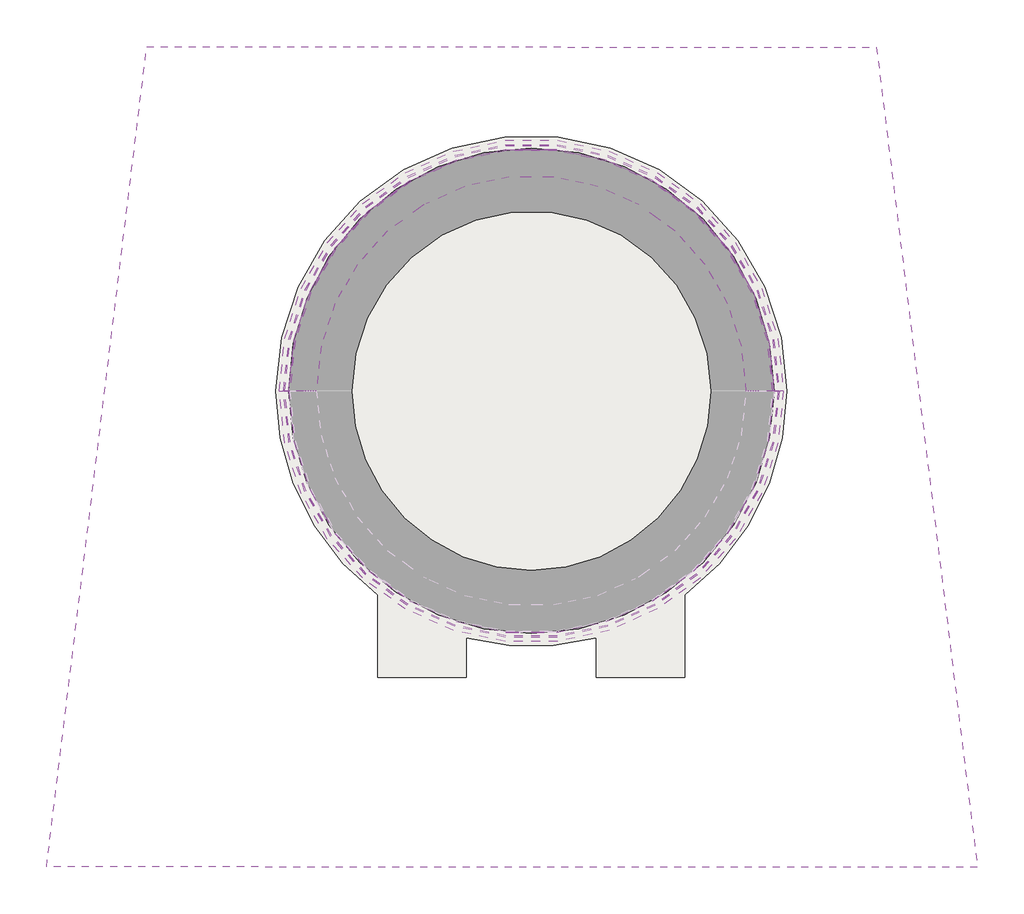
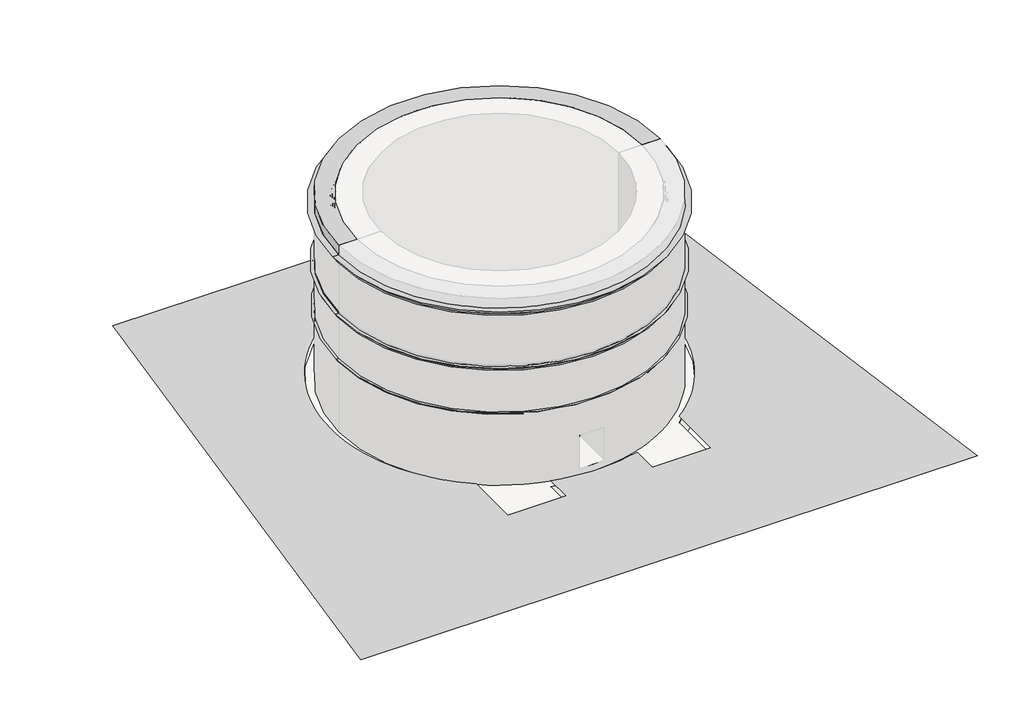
# One storey, part 2 of 2: 9 proxies, 1 slab.
"""IFC4 building model written with IfcOpenShell, lengths in millimetres."""

from ifc_helpers import new_model, si_unit, point, frame, frame_2d, origin, place, context, project, spatial, polyline, circle_curve, ellipse_curve, trimmed, segment, composite_curve, outline, extrude, triangles, element, save
from ifc_brep_helpers import plane_surface, cylinder_surface, revolved_surface, advanced_brep

model = new_model("IFC4")

# Units and contexts
model_context = context("Model", 3, world=origin())
ifc_project = project(units=[si_unit("LENGTHUNIT", "METRE", prefix="MILLI")], contexts=[model_context])

# Site, building, storey
site = spatial("IfcSite", under=ifc_project)
building = spatial("IfcBuilding", under=site)
storey = spatial("IfcBuildingStorey", under=building, Name="T.O. Footing", Elevation=-1219.2)

# Proxies
placement = place(None, origin())
element("IfcBuildingElementProxy", 1, Name="Building Element Proxy", at=placement, inside=storey, context=model_context, shape_type="Tessellation", body=[
    triangles([(-43945.8059692, 43617.1748657, 0.0), (-56048.1788818, -55489.3199707, 0.0), (56344.5189331, -55536.0706055, 0.0), (44155.6303711, 43521.608606, 0.0), (-28350.3509216, 2019.2411373, 0.0), (-28300.060968, 3779.6088318, 0.0), (-28149.3562134, 5534.2348709, 0.0), (-27898.7296509, 7277.3953308, 0.0), (-27548.9928589, 9003.4050934, 0.0), (-27101.2922791, 10706.6336884, 0.0), (-26557.0882874, 12381.5256409, 0.0), (-25918.1528687, 14022.6184937, 0.0), (-25186.5696167, 15624.5590851, 0.0), (-24364.7290833, 17182.12099, 0.0), (-23455.3101746, 18690.2254486, 0.0), (-22461.2755005, 20143.9518311, 0.0), (-21385.8737, 21538.559729, 0.0), (-20232.6068848, 22869.4994202, 0.0), (-19005.2399414, 24132.4316345, 0.0), (-17707.7749512, 25323.2333679, 0.0), (-16344.4453766, 26438.0211365, 0.0), (-14919.6974579, 27473.1626038, 0.0), (-13438.1774231, 28425.2765808, 0.0), (-11904.7186981, 29291.2609314, 0.0), (-10324.3233032, 30068.2902466, 0.0), (-8702.1449936, 30753.8274719, 0.0), (-7043.4764694, 31345.6401855, 0.0), (-5353.7267029, 31841.7936218, 0.0), (-3638.4078575, 32240.6739258, 0.0), (-1903.1152313, 32540.9788513, 0.0), (-153.5085079, 32741.727063, 0.0), (1604.7052483, 32842.2651123, 0.0), (3365.7910675, 32842.2651123, 0.0), (5124.0046783, 32741.727063, 0.0), (6873.6118378, 32540.9788513, 0.0), (8608.9041733, 32240.6739258, 0.0), (10324.2233093, 31841.7936218, 0.0), (12013.9724945, 31345.6401855, 0.0), (13672.6410187, 30753.8274719, 0.0), (15294.8199097, 30068.2902466, 0.0), (16875.2153046, 29291.2609314, 0.0), (18408.6740295, 28425.2765808, 0.0), (19890.1929016, 27473.1626038, 0.0), (21314.9431458, 26438.0211365, 0.0), (22678.2715576, 25323.2333679, 0.0), (23975.7365479, 24132.4316345, 0.0), (24248.6477966, 23851.6115662, 0.0), (25203.1034912, 22869.4994202, 0.0), (26356.3703064, 21538.559729, 0.0), (27431.7721069, 20143.9518311, 0.0), (28425.806781, 18690.2254486, 0.0), (29335.2256897, 17182.12099, 0.0), (30157.0662231, 15624.5590851, 0.0), (30888.6494751, 14022.6184937, 0.0), (31527.5848938, 12381.5256409, 0.0), (32071.7888855, 10706.6336884, 0.0), (32519.4894653, 9003.4050934, 0.0), (32869.2239319, 7277.3953308, 0.0), (33119.8528198, 5534.2348709, 0.0), (33270.5575745, 3779.6088318, 0.0), (33320.8475281, 2019.2411373, 0.0), (33275.047998, 339.211635, 0.0), (33137.7796326, -1335.8270382, 0.0), (32909.4563599, -3000.8990959, 0.0), (32590.7525574, -4651.0579651, 0.0), (32182.614679, -6281.401474, 0.0), (31686.256604, -7887.0871857, 0.0), (31103.1526611, -9463.3444611, 0.0), (30435.0353027, -11005.4910278, 0.0), (29683.8881287, -12508.9446075, 0.0), (28851.9435608, -13969.2415192, 0.0), (27941.6735413, -15382.04133, 0.0), (26955.7802307, -16743.1489471, 0.0), (25897.1936829, -18048.5192688, 0.0), (24769.0602173, -19294.2746246, 0.0), (23574.7261414, -20476.7152405, 0.0), (22317.7447266, -21592.3308655, 0.0), (21001.8483032, -22637.8019348, 0.0), (21001.8483032, -32615.8812561, 0.0), (10333.8483032, -32615.8812561, 0.0), (10333.8483032, -27800.7798157, 0.0), (8616.4909195, -28200.6554077, 0.0), (6879.0847595, -28501.7091248, 0.0), (5127.3102905, -28702.9619568, 0.0), (3366.8965233, -28803.7511536, 0.0), (1603.5999378, -28803.7511536, 0.0), (-156.8138294, -28702.9619568, 0.0), (-1908.5880077, -28501.7091248, 0.0), (-3645.994313, -28200.6554077, 0.0), (-5363.3516968, -27800.7798157, 0.0), (-5363.3516968, -32615.8812561, 0.0), (-16031.3516968, -32615.8812561, 0.0), (-16031.3516968, -22637.8019348, 0.0), (-17347.2492828, -21592.3308655, 0.0), (-18604.2306976, -20476.7152405, 0.0), (-19607.9984985, -19482.9421783, 0.0), (-19798.5636108, -19294.2746246, 0.0), (-20926.6970764, -18048.5192688, 0.0), (-21985.2836243, -16743.1489471, 0.0), (-22971.1769348, -15382.04133, 0.0), (-23881.4469543, -13969.2415192, 0.0), (-24713.3915222, -12508.9446075, 0.0), (-25464.5386963, -11005.4910278, 0.0), (-26132.6560547, -9463.3444611, 0.0), (-26715.7599976, -7887.0871857, 0.0), (-27212.1180725, -6281.401474, 0.0), (-27620.2559509, -4651.0579651, 0.0), (-27938.9597534, -3000.8990959, 0.0), (-28167.2853516, -1335.8270382, 0.0), (-28304.5513916, 339.211635, 0.0)], [[2, 103, 104], [103, 2, 102], [2, 104, 105], [101, 102, 2], [100, 101, 2], [2, 99, 100], [110, 5, 2], [109, 110, 2], [105, 106, 2], [107, 108, 2], [106, 107, 2], [109, 2, 108], [2, 5, 1], [91, 92, 2], [90, 91, 89], [86, 87, 91], [88, 89, 91], [87, 88, 91], [91, 85, 86], [98, 99, 92], [97, 98, 92], [93, 94, 92], [96, 97, 92], [94, 95, 92], [92, 95, 96], [92, 99, 2], [2, 3, 91], [7, 8, 1], [6, 7, 1], [9, 10, 1], [11, 12, 1], [10, 11, 1], [8, 9, 1], [1, 13, 14], [13, 1, 12], [1, 14, 15], [15, 16, 1], [17, 18, 1], [16, 17, 1], [1, 18, 19], [6, 1, 5], [20, 21, 1], [19, 20, 1], [22, 23, 1], [24, 25, 1], [23, 24, 1], [21, 22, 1], [27, 28, 1], [26, 27, 1], [29, 30, 1], [31, 32, 1], [30, 31, 1], [28, 29, 1], [25, 26, 1], [1, 32, 4], [84, 85, 80], [83, 84, 80], [81, 82, 80], [80, 82, 83], [79, 80, 3], [85, 91, 80], [77, 78, 79], [75, 76, 79], [73, 74, 79], [75, 79, 74], [77, 79, 76], [79, 3, 73], [71, 72, 3], [70, 71, 3], [69, 3, 68], [3, 69, 70], [67, 68, 3], [3, 66, 67], [72, 73, 3], [65, 66, 3], [64, 65, 3], [62, 63, 3], [4, 60, 61], [62, 3, 61], [64, 3, 63], [61, 3, 4], [80, 91, 3], [41, 42, 4], [40, 41, 4], [45, 46, 4], [43, 44, 4], [45, 4, 44], [42, 43, 4], [34, 35, 4], [33, 34, 4], [38, 39, 4], [36, 37, 4], [38, 4, 37], [35, 36, 4], [40, 4, 39], [54, 55, 4], [53, 54, 4], [58, 59, 4], [56, 57, 4], [58, 4, 57], [55, 56, 4], [48, 49, 4], [47, 48, 4], [51, 52, 4], [50, 4, 49], [4, 50, 51], [52, 53, 4], [47, 4, 46], [59, 60, 4], [33, 4, 32]], closed=False),
])
element("IfcBuildingElementProxy", 2, Name="Lower Cornice", ObjectType="Lower Cornice", at=placement, inside=storey, context=model_context, shape_type="AdvancedBrep", body=[
    advanced_brep(
    [(-26826.3517732, 2019.2411242, 12954.0), (31796.8482268, 2019.2411242, 12954.0), (32254.0482268, 2019.2411242, 12954.0), (-27283.5517732, 2019.2411242, 12954.0), (-26826.3517732, 2019.2411242, 12496.8), (31796.8482268, 2019.2411242, 12496.8), (-26953.3517732, 2019.2411242, 12496.8), (31923.8482268, 2019.2411242, 12496.8), (-26953.3517732, 2019.2411242, 12623.8), (31923.8482268, 2019.2411242, 12623.8)],
    [
        (0, 1, circle_curve(frame((2485.2482268, 2019.2411242, 12954.0), z_axis=(0.0, 0.0, -1.0), x_axis=(1.0, 0.0, 0.0)), 29311.6)),
        (1, 2),
        (2, 3, circle_curve(frame((2485.2482268, 2019.2411242, 12954.0), z_axis=(0.0, 0.0, 1.0), x_axis=(1.0, 0.0, 0.0)), 29768.8)),
        (3, 0),
        (4, 5, circle_curve(frame((2485.2482268, 2019.2411242, 12496.8), z_axis=(0.0, 0.0, -1.0), x_axis=(1.0, 0.0, 0.0)), 29311.6)),
        (5, 1),
        (0, 4),
        (6, 7, circle_curve(frame((2485.2482268, 2019.2411242, 12496.8), z_axis=(0.0, 0.0, -1.0), x_axis=(1.0, 0.0, 0.0)), 29438.6)),
        (7, 5),
        (4, 6),
        (8, 9, circle_curve(frame((2485.2482268, 2019.2411242, 12623.8), z_axis=(0.0, 0.0, -1.0), x_axis=(1.0, 0.0, 0.0)), 29438.6)),
        (9, 7),
        (6, 8),
        (2, 9),
        (8, 3),
    ],
    [
        plane_surface(frame((2485.2482268, 2019.2411242, 12954.0), z_axis=(0.0, 0.0, 1.0), x_axis=(1.0, 0.0, 0.0))),
        revolved_surface(polyline([(31796.848226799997, 2019.2411242, 12954.0), (31796.848226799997, 2019.2411242, 12496.8)]), (2485.2482268, 2019.2411242, 12954.0), (0.0, 0.0, 1.0)),
        plane_surface(frame((2485.2482268, 2019.2411242, 12496.8), z_axis=(0.0, 0.0, -1.0), x_axis=(1.0, 0.0, 0.0))),
        cylinder_surface(frame((2485.2482268, 2019.2411242, 12954.0), z_axis=(0.0, 0.0, 1.0), x_axis=(1.0, 0.0, 0.0)), 29438.6),
        revolved_surface(polyline([(31923.8482268, 2019.2411242, 12623.8), (32254.0482268, 2019.2411242, 12954.0)]), (2485.2482268, 2019.2411242, 12954.0), (0.0, 0.0, 1.0)),
        plane_surface(frame((31796.8482268, 2019.2411242, 13258.8), z_axis=(0.0, -1.0, 0.0), x_axis=(1.0, 0.0, 0.0))),
        plane_surface(frame((-26826.3517732, 2019.2411242, 12649.2), z_axis=(0.0, -1.0, 0.0), x_axis=(1.0, 0.0, 0.0))),
    ],
    [
        (0, [[1, 2, 3, 4]]),
        (1, [[5, 6, -1, 7]]),
        (2, [[8, 9, -5, 10]]),
        (3, [[11, 12, -8, 13]]),
        (4, [[-3, 14, -11, 15]]),
        (5, [[-2, -6, -9, -12, -14]]),
        (6, [[-15, -13, -10, -7, -4]]),
    ],
),
])
element("IfcBuildingElementProxy", 3, Name="Lower Cornice", ObjectType="Lower Cornice", at=placement, inside=storey, context=model_context, shape_type="AdvancedBrep", body=[
    advanced_brep(
    [(-26953.3517732, 2019.2411242, 12623.8), (31923.8482268, 2019.2411242, 12623.8), (32254.0482268, 2019.2411242, 12954.0), (-27283.5517732, 2019.2411242, 12954.0), (-26953.3517732, 2019.2411242, 12496.8), (31923.8482268, 2019.2411242, 12496.8), (-26826.3517732, 2019.2411242, 12496.8), (31796.8482268, 2019.2411242, 12496.8), (-26826.3517732, 2019.2411242, 12954.0), (31796.8482268, 2019.2411242, 12954.0)],
    [
        (0, 1, circle_curve(frame((2485.2482268, 2019.2411242, 12623.8), z_axis=(0.0, 0.0, 1.0), x_axis=(1.0, 0.0, 0.0)), 29438.6)),
        (1, 2),
        (2, 3, circle_curve(frame((2485.2482268, 2019.2411242, 12954.0), z_axis=(0.0, 0.0, -1.0), x_axis=(1.0, 0.0, 0.0)), 29768.8)),
        (3, 0),
        (4, 5, circle_curve(frame((2485.2482268, 2019.2411242, 12496.8), z_axis=(0.0, 0.0, 1.0), x_axis=(1.0, 0.0, 0.0)), 29438.6)),
        (5, 1),
        (0, 4),
        (6, 7, circle_curve(frame((2485.2482268, 2019.2411242, 12496.8), z_axis=(0.0, 0.0, 1.0), x_axis=(1.0, 0.0, 0.0)), 29311.6)),
        (7, 5),
        (4, 6),
        (8, 9, circle_curve(frame((2485.2482268, 2019.2411242, 12954.0), z_axis=(0.0, 0.0, 1.0), x_axis=(1.0, 0.0, 0.0)), 29311.6)),
        (9, 7),
        (6, 8),
        (2, 9),
        (8, 3),
    ],
    [
        revolved_surface(polyline([(32254.0482268, 2019.2411242, 12954.0), (31923.8482268, 2019.2411242, 12623.8)]), (2485.2482268, 2019.2411242, 12954.0), (0.0, 0.0, -1.0)),
        cylinder_surface(frame((2485.2482268, 2019.2411242, 12954.0), z_axis=(0.0, 0.0, -1.0), x_axis=(1.0, 0.0, 0.0)), 29438.6),
        plane_surface(frame((2485.2482268, 2019.2411242, 12496.8), z_axis=(0.0, 0.0, -1.0), x_axis=(1.0, 0.0, 0.0))),
        revolved_surface(polyline([(31796.848226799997, 2019.2411242, 12496.8), (31796.848226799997, 2019.2411242, 12954.0)]), (2485.2482268, 2019.2411242, 12954.0), (0.0, 0.0, -1.0)),
        plane_surface(frame((2485.2482268, 2019.2411242, 12954.0), z_axis=(0.0, 0.0, 1.0), x_axis=(1.0, 0.0, 0.0))),
        plane_surface(frame((31796.8482268, 2019.2411242, 12649.2), z_axis=(0.0, 1.0, 0.0), x_axis=(1.0, 0.0, 0.0))),
        plane_surface(frame((-26826.3517732, 2019.2411242, 13258.8), z_axis=(0.0, 1.0, 0.0), x_axis=(1.0, 0.0, 0.0))),
    ],
    [
        (0, [[1, 2, 3, 4]]),
        (1, [[5, 6, -1, 7]]),
        (2, [[8, 9, -5, 10]]),
        (3, [[11, 12, -8, 13]]),
        (4, [[-3, 14, -11, 15]]),
        (5, [[-2, -6, -9, -12, -14]]),
        (6, [[-15, -13, -10, -7, -4]]),
    ],
),
])
element("IfcBuildingElementProxy", 4, Name="Reveal", ObjectType="Reveal", at=placement, inside=storey, context=model_context, shape_type="AdvancedBrep", body=[
    advanced_brep(
    [(-26826.3517732, 2019.2411242, 32918.4), (31796.8482268, 2019.2411242, 32918.4), (29968.0482268, 2019.2411242, 32918.4), (-24997.5517732, 2019.2411242, 32918.4), (-26826.3517732, 2019.2411242, 34747.2), (31796.8482268, 2019.2411242, 34747.2), (-23473.5517732, 2019.2411242, 34747.2), (28444.0482268, 2019.2411242, 34747.2), (-23473.5517732, 2019.2411242, 34442.4), (28444.0482268, 2019.2411242, 34442.4), (-23778.3517732, 2019.2411242, 34442.4), (28748.8482268, 2019.2411242, 34442.4), (-23778.3517732, 2019.2411242, 34137.6), (28748.8482268, 2019.2411242, 34137.6), (-24083.1517732, 2019.2411242, 34137.6), (29053.6482268, 2019.2411242, 34137.6), (-24083.1517732, 2019.2411242, 33832.8), (29053.6482268, 2019.2411242, 33832.8), (-24387.9517732, 2019.2411242, 33832.8), (29358.4482268, 2019.2411242, 33832.8), (-24387.9517732, 2019.2411242, 33528.0), (29358.4482268, 2019.2411242, 33528.0), (-24692.7517732, 2019.2411242, 33528.0), (29663.2482268, 2019.2411242, 33528.0), (-24692.7517732, 2019.2411242, 33223.2), (29663.2482268, 2019.2411242, 33223.2), (-24997.5517732, 2019.2411242, 33223.2), (29968.0482268, 2019.2411242, 33223.2)],
    [
        (0, 1, circle_curve(frame((2485.2482268, 2019.2411242, 32918.4), z_axis=(0.0, 0.0, -1.0), x_axis=(1.0, 0.0, 0.0)), 29311.6)),
        (1, 2),
        (2, 3, circle_curve(frame((2485.2482268, 2019.2411242, 32918.4), z_axis=(0.0, 0.0, 1.0), x_axis=(1.0, 0.0, 0.0)), 27482.8)),
        (3, 0),
        (4, 5, circle_curve(frame((2485.2482268, 2019.2411242, 34747.2), z_axis=(0.0, 0.0, -1.0), x_axis=(1.0, 0.0, 0.0)), 29311.6)),
        (5, 1),
        (0, 4),
        (6, 7, circle_curve(frame((2485.2482268, 2019.2411242, 34747.2), z_axis=(0.0, 0.0, -1.0), x_axis=(1.0, 0.0, 0.0)), 25958.8)),
        (7, 5),
        (4, 6),
        (8, 9, circle_curve(frame((2485.2482268, 2019.2411242, 34442.4), z_axis=(0.0, 0.0, -1.0), x_axis=(1.0, 0.0, 0.0)), 25958.8)),
        (9, 7),
        (6, 8),
        (10, 11, circle_curve(frame((2485.2482268, 2019.2411242, 34442.4), z_axis=(0.0, 0.0, -1.0), x_axis=(1.0, 0.0, 0.0)), 26263.6)),
        (11, 9),
        (8, 10),
        (12, 13, circle_curve(frame((2485.2482268, 2019.2411242, 34137.6), z_axis=(0.0, 0.0, -1.0), x_axis=(1.0, 0.0, 0.0)), 26263.6)),
        (13, 11),
        (10, 12),
        (14, 15, circle_curve(frame((2485.2482268, 2019.2411242, 34137.6), z_axis=(0.0, 0.0, -1.0), x_axis=(1.0, 0.0, 0.0)), 26568.4)),
        (15, 13),
        (12, 14),
        (16, 17, circle_curve(frame((2485.2482268, 2019.2411242, 33832.8), z_axis=(0.0, 0.0, -1.0), x_axis=(1.0, 0.0, 0.0)), 26568.4)),
        (17, 15),
        (14, 16),
        (18, 19, circle_curve(frame((2485.2482268, 2019.2411242, 33832.8), z_axis=(0.0, 0.0, -1.0), x_axis=(1.0, 0.0, 0.0)), 26873.2)),
        (19, 17),
        (16, 18),
        (20, 21, circle_curve(frame((2485.2482268, 2019.2411242, 33528.0), z_axis=(0.0, 0.0, -1.0), x_axis=(1.0, 0.0, 0.0)), 26873.2)),
        (21, 19),
        (18, 20),
        (22, 23, circle_curve(frame((2485.2482268, 2019.2411242, 33528.0), z_axis=(0.0, 0.0, -1.0), x_axis=(1.0, 0.0, 0.0)), 27178.0)),
        (23, 21),
        (20, 22),
        (24, 25, circle_curve(frame((2485.2482268, 2019.2411242, 33223.2), z_axis=(0.0, 0.0, -1.0), x_axis=(1.0, 0.0, 0.0)), 27178.0)),
        (25, 23),
        (22, 24),
        (26, 27, circle_curve(frame((2485.2482268, 2019.2411242, 33223.2), z_axis=(0.0, 0.0, -1.0), x_axis=(1.0, 0.0, 0.0)), 27482.8)),
        (27, 25),
        (24, 26),
        (2, 27),
        (26, 3),
    ],
    [
        plane_surface(frame((2485.2482268, 2019.2411242, 32918.4), z_axis=(0.0, 0.0, -1.0), x_axis=(1.0, 0.0, 0.0))),
        cylinder_surface(frame((2485.2482268, 2019.2411242, 34747.2), z_axis=(0.0, 0.0, 1.0), x_axis=(1.0, 0.0, 0.0)), 29311.6),
        plane_surface(frame((2485.2482268, 2019.2411242, 34747.2), z_axis=(0.0, 0.0, 1.0), x_axis=(1.0, 0.0, 0.0))),
        revolved_surface(polyline([(28444.048226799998, 2019.2411242, 34747.2), (28444.048226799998, 2019.2411242, 34442.4)]), (2485.2482268, 2019.2411242, 34747.2), (0.0, 0.0, 1.0)),
        plane_surface(frame((2485.2482268, 2019.2411242, 34442.4), z_axis=(0.0, 0.0, -1.0), x_axis=(1.0, 0.0, 0.0))),
        revolved_surface(polyline([(28748.848226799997, 2019.2411242, 34442.4), (28748.848226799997, 2019.2411242, 34137.6)]), (2485.2482268, 2019.2411242, 34747.2), (0.0, 0.0, 1.0)),
        plane_surface(frame((2485.2482268, 2019.2411242, 34137.6), z_axis=(0.0, 0.0, -1.0), x_axis=(1.0, 0.0, 0.0))),
        revolved_surface(polyline([(29053.6482268, 2019.2411242, 34137.6), (29053.6482268, 2019.2411242, 33832.8)]), (2485.2482268, 2019.2411242, 34747.2), (0.0, 0.0, 1.0)),
        plane_surface(frame((2485.2482268, 2019.2411242, 33832.8), z_axis=(0.0, 0.0, -1.0), x_axis=(1.0, 0.0, 0.0))),
        revolved_surface(polyline([(29358.4482268, 2019.2411242, 33832.8), (29358.4482268, 2019.2411242, 33528.0)]), (2485.2482268, 2019.2411242, 34747.2), (0.0, 0.0, 1.0)),
        plane_surface(frame((2485.2482268, 2019.2411242, 33528.0), z_axis=(0.0, 0.0, -1.0), x_axis=(1.0, 0.0, 0.0))),
        revolved_surface(polyline([(29663.2482268, 2019.2411242, 33528.0), (29663.2482268, 2019.2411242, 33223.2)]), (2485.2482268, 2019.2411242, 34747.2), (0.0, 0.0, 1.0)),
        plane_surface(frame((2485.2482268, 2019.2411242, 33223.2), z_axis=(0.0, 0.0, -1.0), x_axis=(1.0, 0.0, 0.0))),
        revolved_surface(polyline([(29968.048226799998, 2019.2411242, 33223.2), (29968.048226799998, 2019.2411242, 32918.4)]), (2485.2482268, 2019.2411242, 34747.2), (0.0, 0.0, 1.0)),
        plane_surface(frame((31796.8482268, 2019.2411242, 35052.0), z_axis=(0.0, -1.0, 0.0), x_axis=(1.0, 0.0, 0.0))),
        plane_surface(frame((-26826.3517732, 2019.2411242, 34442.4), z_axis=(0.0, -1.0, 0.0), x_axis=(1.0, 0.0, 0.0))),
    ],
    [
        (0, [[1, 2, 3, 4]]),
        (1, [[5, 6, -1, 7]]),
        (2, [[8, 9, -5, 10]]),
        (3, [[11, 12, -8, 13]]),
        (4, [[14, 15, -11, 16]]),
        (5, [[17, 18, -14, 19]]),
        (6, [[20, 21, -17, 22]]),
        (7, [[23, 24, -20, 25]]),
        (8, [[26, 27, -23, 28]]),
        (9, [[29, 30, -26, 31]]),
        (10, [[32, 33, -29, 34]]),
        (11, [[35, 36, -32, 37]]),
        (12, [[38, 39, -35, 40]]),
        (13, [[-3, 41, -38, 42]]),
        (14, [[-2, -6, -9, -12, -15, -18, -21, -24, -27, -30, -33, -36, -39, -41]]),
        (15, [[-42, -40, -37, -34, -31, -28, -25, -22, -19, -16, -13, -10, -7, -4]]),
    ],
),
])
element("IfcBuildingElementProxy", 5, Name="Roof Cornice", ObjectType="Roof Cornice", at=placement, inside=storey, context=model_context, shape_type="AdvancedBrep", body=[
    advanced_brep(
    [(-26826.3517732, 2019.2411242, 32918.4), (31796.8482268, 2019.2411242, 32918.4), (32914.4482268, 2019.2411242, 32918.4), (-27943.9517732, 2019.2411242, 32918.4), (-26826.3517732, 2019.2411242, 31699.2), (31796.8482268, 2019.2411242, 31699.2), (-27131.1517732, 2019.2411242, 31699.2), (32101.6482268, 2019.2411242, 31699.2), (-27131.1517732, 2019.2411242, 32004.0), (32101.6482268, 2019.2411242, 32004.0)],
    [
        (0, 1, circle_curve(frame((2485.2482268, 2019.2411242, 32918.4), z_axis=(0.0, 0.0, -1.0), x_axis=(1.0, 0.0, 0.0)), 29311.6)),
        (1, 2),
        (2, 3, circle_curve(frame((2485.2482268, 2019.2411242, 32918.4), z_axis=(0.0, 0.0, 1.0), x_axis=(1.0, 0.0, 0.0)), 30429.2)),
        (3, 0),
        (4, 5, circle_curve(frame((2485.2482268, 2019.2411242, 31699.2), z_axis=(0.0, 0.0, -1.0), x_axis=(1.0, 0.0, 0.0)), 29311.6)),
        (5, 1),
        (0, 4),
        (6, 7, circle_curve(frame((2485.2482268, 2019.2411242, 31699.2), z_axis=(0.0, 0.0, -1.0), x_axis=(1.0, 0.0, 0.0)), 29616.4)),
        (7, 5),
        (4, 6),
        (8, 9, circle_curve(frame((2485.2482268, 2019.2411242, 32004.0), z_axis=(0.0, 0.0, -1.0), x_axis=(1.0, 0.0, 0.0)), 29616.4)),
        (9, 7),
        (6, 8),
        (2, 9),
        (8, 3),
    ],
    [
        plane_surface(frame((2485.2482268, 2019.2411242, 32918.4), z_axis=(0.0, 0.0, 1.0), x_axis=(1.0, 0.0, 0.0))),
        revolved_surface(polyline([(31796.848226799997, 2019.2411242, 32918.4), (31796.848226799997, 2019.2411242, 31699.2)]), (2485.2482268, 2019.2411242, 32918.4), (0.0, 0.0, 1.0)),
        plane_surface(frame((2485.2482268, 2019.2411242, 31699.2), z_axis=(0.0, 0.0, -1.0), x_axis=(1.0, 0.0, 0.0))),
        cylinder_surface(frame((2485.2482268, 2019.2411242, 32918.4), z_axis=(0.0, 0.0, 1.0), x_axis=(1.0, 0.0, 0.0)), 29616.4),
        revolved_surface(polyline([(32101.6482268, 2019.2411242, 32004.0), (32914.4482268, 2019.2411242, 32918.4)]), (2485.2482268, 2019.2411242, 32918.4), (0.0, 0.0, 1.0)),
        plane_surface(frame((31796.8482268, 2019.2411242, 33223.2), z_axis=(0.0, -1.0, 0.0), x_axis=(1.0, 0.0, 0.0))),
        plane_surface(frame((-26826.3517732, 2019.2411242, 32613.6), z_axis=(0.0, -1.0, 0.0), x_axis=(1.0, 0.0, 0.0))),
    ],
    [
        (0, [[1, 2, 3, 4]]),
        (1, [[5, 6, -1, 7]]),
        (2, [[8, 9, -5, 10]]),
        (3, [[11, 12, -8, 13]]),
        (4, [[-3, 14, -11, 15]]),
        (5, [[-2, -6, -9, -12, -14]]),
        (6, [[-15, -13, -10, -7, -4]]),
    ],
),
])
element("IfcBuildingElementProxy", 6, Name="Roof Cornice", ObjectType="Roof Cornice", at=placement, inside=storey, context=model_context, shape_type="AdvancedBrep", body=[
    advanced_brep(
    [(-27131.1517732, 2019.2411242, 32004.0), (32101.6482268, 2019.2411242, 32004.0), (32914.4482268, 2019.2411242, 32918.4), (-27943.9517732, 2019.2411242, 32918.4), (-27131.1517732, 2019.2411242, 31699.2), (32101.6482268, 2019.2411242, 31699.2), (-26826.3517732, 2019.2411242, 31699.2), (31796.8482268, 2019.2411242, 31699.2), (-26826.3517732, 2019.2411242, 32918.4), (31796.8482268, 2019.2411242, 32918.4)],
    [
        (0, 1, circle_curve(frame((2485.2482268, 2019.2411242, 32004.0), z_axis=(0.0, 0.0, 1.0), x_axis=(1.0, 0.0, 0.0)), 29616.4)),
        (1, 2),
        (2, 3, circle_curve(frame((2485.2482268, 2019.2411242, 32918.4), z_axis=(0.0, 0.0, -1.0), x_axis=(1.0, 0.0, 0.0)), 30429.2)),
        (3, 0),
        (4, 5, circle_curve(frame((2485.2482268, 2019.2411242, 31699.2), z_axis=(0.0, 0.0, 1.0), x_axis=(1.0, 0.0, 0.0)), 29616.4)),
        (5, 1),
        (0, 4),
        (6, 7, circle_curve(frame((2485.2482268, 2019.2411242, 31699.2), z_axis=(0.0, 0.0, 1.0), x_axis=(1.0, 0.0, 0.0)), 29311.6)),
        (7, 5),
        (4, 6),
        (8, 9, circle_curve(frame((2485.2482268, 2019.2411242, 32918.4), z_axis=(0.0, 0.0, 1.0), x_axis=(1.0, 0.0, 0.0)), 29311.6)),
        (9, 7),
        (6, 8),
        (2, 9),
        (8, 3),
    ],
    [
        revolved_surface(polyline([(32914.4482268, 2019.2411242, 32918.4), (32101.6482268, 2019.2411242, 32004.0)]), (2485.2482268, 2019.2411242, 32918.4), (0.0, 0.0, -1.0)),
        cylinder_surface(frame((2485.2482268, 2019.2411242, 32918.4), z_axis=(0.0, 0.0, -1.0), x_axis=(1.0, 0.0, 0.0)), 29616.4),
        plane_surface(frame((2485.2482268, 2019.2411242, 31699.2), z_axis=(0.0, 0.0, -1.0), x_axis=(1.0, 0.0, 0.0))),
        revolved_surface(polyline([(31796.848226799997, 2019.2411242, 31699.2), (31796.848226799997, 2019.2411242, 32918.4)]), (2485.2482268, 2019.2411242, 32918.4), (0.0, 0.0, -1.0)),
        plane_surface(frame((2485.2482268, 2019.2411242, 32918.4), z_axis=(0.0, 0.0, 1.0), x_axis=(1.0, 0.0, 0.0))),
        plane_surface(frame((31796.8482268, 2019.2411242, 32613.6), z_axis=(0.0, 1.0, 0.0), x_axis=(1.0, 0.0, 0.0))),
        plane_surface(frame((-26826.3517732, 2019.2411242, 33223.2), z_axis=(0.0, 1.0, 0.0), x_axis=(1.0, 0.0, 0.0))),
    ],
    [
        (0, [[1, 2, 3, 4]]),
        (1, [[5, 6, -1, 7]]),
        (2, [[8, 9, -5, 10]]),
        (3, [[11, 12, -8, 13]]),
        (4, [[-3, 14, -11, 15]]),
        (5, [[-2, -6, -9, -12, -14]]),
        (6, [[-15, -13, -10, -7, -4]]),
    ],
),
])
element("IfcBuildingElementProxy", 7, Name="Upper Cornice", ObjectType="Upper Cornice", at=placement, inside=storey, context=model_context, shape_type="AdvancedBrep", body=[
    advanced_brep(
    [(-26826.3517732, 2019.2411242, 21691.6), (31796.8482268, 2019.2411242, 21691.6), (32406.4482268, 2019.2411242, 21691.6), (-27435.9517732, 2019.2411242, 21691.6), (-26826.3517732, 2019.2411242, 21107.4), (31796.8482268, 2019.2411242, 21107.4), (-27131.1517732, 2019.2411242, 21107.4), (32101.6482268, 2019.2411242, 21107.4), (-27131.1517732, 2019.2411242, 21361.4), (32101.6482268, 2019.2411242, 21361.4)],
    [
        (0, 1, circle_curve(frame((2485.2482268, 2019.2411242, 21691.6), z_axis=(0.0, 0.0, -1.0), x_axis=(1.0, 0.0, 0.0)), 29311.6)),
        (1, 2),
        (2, 3, circle_curve(frame((2485.2482268, 2019.2411242, 21691.6), z_axis=(0.0, 0.0, 1.0), x_axis=(1.0, 0.0, 0.0)), 29921.2)),
        (3, 0),
        (4, 5, circle_curve(frame((2485.2482268, 2019.2411242, 21107.4), z_axis=(0.0, 0.0, -1.0), x_axis=(1.0, 0.0, 0.0)), 29311.6)),
        (5, 1),
        (0, 4),
        (6, 7, circle_curve(frame((2485.2482268, 2019.2411242, 21107.4), z_axis=(0.0, 0.0, -1.0), x_axis=(1.0, 0.0, 0.0)), 29616.4)),
        (7, 5),
        (4, 6),
        (8, 9, circle_curve(frame((2485.2482268, 2019.2411242, 21361.4), z_axis=(0.0, 0.0, -1.0), x_axis=(1.0, 0.0, 0.0)), 29616.4)),
        (9, 7),
        (6, 8),
        (2, 9),
        (8, 3),
    ],
    [
        plane_surface(frame((2485.2482268, 2019.2411242, 21691.6), z_axis=(0.0, 0.0, 1.0), x_axis=(1.0, 0.0, 0.0))),
        revolved_surface(polyline([(31796.848226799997, 2019.2411242, 21691.6), (31796.848226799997, 2019.2411242, 21107.4)]), (2485.2482268, 2019.2411242, 21691.6), (0.0, 0.0, 1.0)),
        plane_surface(frame((2485.2482268, 2019.2411242, 21107.4), z_axis=(0.0, 0.0, -1.0), x_axis=(1.0, 0.0, 0.0))),
        cylinder_surface(frame((2485.2482268, 2019.2411242, 21691.6), z_axis=(0.0, 0.0, 1.0), x_axis=(1.0, 0.0, 0.0)), 29616.4),
        revolved_surface(polyline([(32101.6482268, 2019.2411242, 21361.4), (32406.4482268, 2019.2411242, 21691.6)]), (2485.2482268, 2019.2411242, 21691.6), (0.0, 0.0, 1.0)),
        plane_surface(frame((31796.8482268, 2019.2411242, 21996.4), z_axis=(0.0, -1.0, 0.0), x_axis=(1.0, 0.0, 0.0))),
        plane_surface(frame((-26826.3517732, 2019.2411242, 21386.8), z_axis=(0.0, -1.0, 0.0), x_axis=(1.0, 0.0, 0.0))),
    ],
    [
        (0, [[1, 2, 3, 4]]),
        (1, [[5, 6, -1, 7]]),
        (2, [[8, 9, -5, 10]]),
        (3, [[11, 12, -8, 13]]),
        (4, [[-3, 14, -11, 15]]),
        (5, [[-2, -6, -9, -12, -14]]),
        (6, [[-15, -13, -10, -7, -4]]),
    ],
),
])
element("IfcBuildingElementProxy", 8, Name="Upper Cornice", ObjectType="Upper Cornice", at=placement, inside=storey, context=model_context, shape_type="AdvancedBrep", body=[
    advanced_brep(
    [(-27131.1517732, 2019.2411242, 21361.4), (32101.6482268, 2019.2411242, 21361.4), (32406.4482268, 2019.2411242, 21691.6), (-27435.9517732, 2019.2411242, 21691.6), (-27131.1517732, 2019.2411242, 21107.4), (32101.6482268, 2019.2411242, 21107.4), (-26826.3517732, 2019.2411242, 21107.4), (31796.8482268, 2019.2411242, 21107.4), (-26826.3517732, 2019.2411242, 21691.6), (31796.8482268, 2019.2411242, 21691.6)],
    [
        (0, 1, circle_curve(frame((2485.2482268, 2019.2411242, 21361.4), z_axis=(0.0, 0.0, 1.0), x_axis=(1.0, 0.0, 0.0)), 29616.4)),
        (1, 2),
        (2, 3, circle_curve(frame((2485.2482268, 2019.2411242, 21691.6), z_axis=(0.0, 0.0, -1.0), x_axis=(1.0, 0.0, 0.0)), 29921.2)),
        (3, 0),
        (4, 5, circle_curve(frame((2485.2482268, 2019.2411242, 21107.4), z_axis=(0.0, 0.0, 1.0), x_axis=(1.0, 0.0, 0.0)), 29616.4)),
        (5, 1),
        (0, 4),
        (6, 7, circle_curve(frame((2485.2482268, 2019.2411242, 21107.4), z_axis=(0.0, 0.0, 1.0), x_axis=(1.0, 0.0, 0.0)), 29311.6)),
        (7, 5),
        (4, 6),
        (8, 9, circle_curve(frame((2485.2482268, 2019.2411242, 21691.6), z_axis=(0.0, 0.0, 1.0), x_axis=(1.0, 0.0, 0.0)), 29311.6)),
        (9, 7),
        (6, 8),
        (2, 9),
        (8, 3),
    ],
    [
        revolved_surface(polyline([(32406.4482268, 2019.2411242, 21691.6), (32101.6482268, 2019.2411242, 21361.4)]), (2485.2482268, 2019.2411242, 21691.6), (0.0, 0.0, -1.0)),
        cylinder_surface(frame((2485.2482268, 2019.2411242, 21691.6), z_axis=(0.0, 0.0, -1.0), x_axis=(1.0, 0.0, 0.0)), 29616.4),
        plane_surface(frame((2485.2482268, 2019.2411242, 21107.4), z_axis=(0.0, 0.0, -1.0), x_axis=(1.0, 0.0, 0.0))),
        revolved_surface(polyline([(31796.848226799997, 2019.2411242, 21107.4), (31796.848226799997, 2019.2411242, 21691.6)]), (2485.2482268, 2019.2411242, 21691.6), (0.0, 0.0, -1.0)),
        plane_surface(frame((2485.2482268, 2019.2411242, 21691.6), z_axis=(0.0, 0.0, 1.0), x_axis=(1.0, 0.0, 0.0))),
        plane_surface(frame((31796.8482268, 2019.2411242, 21386.8), z_axis=(0.0, 1.0, 0.0), x_axis=(1.0, 0.0, 0.0))),
        plane_surface(frame((-26826.3517732, 2019.2411242, 21996.4), z_axis=(0.0, 1.0, 0.0), x_axis=(1.0, 0.0, 0.0))),
    ],
    [
        (0, [[1, 2, 3, 4]]),
        (1, [[5, 6, -1, 7]]),
        (2, [[8, 9, -5, 10]]),
        (3, [[11, 12, -8, 13]]),
        (4, [[-3, 14, -11, 15]]),
        (5, [[-2, -6, -9, -12, -14]]),
        (6, [[-15, -13, -10, -7, -4]]),
    ],
),
])
element("IfcBuildingElementProxy", 9, Name="Upper Reveal", ObjectType="Upper Reveal", at=placement, inside=storey, context=model_context, shape_type="AdvancedBrep", body=[
    advanced_brep(
    [(-26826.3517732, 2019.2411242, 21996.4), (31796.8482268, 2019.2411242, 21996.4), (31796.8482268, 2019.2411242, 21691.6), (-26826.3517732, 2019.2411242, 21691.6), (-26673.9517732, 2019.2411242, 21996.4), (31644.4482268, 2019.2411242, 21996.4), (-26673.9517732, 2019.2411242, 21691.6), (31644.4482268, 2019.2411242, 21691.6), (-26705.7017732, 2019.2411242, 21691.6), (31676.1982268, 2019.2411242, 21691.6), (-26794.6017732, 2019.2411242, 21691.6), (31765.0982268, 2019.2411242, 21691.6)],
    [
        (0, 1, circle_curve(frame((2485.2482268, 2019.2411242, 21996.4), z_axis=(0.0, 0.0, -1.0), x_axis=(1.0, 0.0, 0.0)), 29311.6)),
        (1, 2),
        (2, 3, circle_curve(frame((2485.2482268, 2019.2411242, 21691.6), z_axis=(0.0, 0.0, 1.0), x_axis=(1.0, 0.0, 0.0)), 29311.6)),
        (3, 0),
        (4, 5, circle_curve(frame((2485.2482268, 2019.2411242, 21996.4), z_axis=(0.0, 0.0, -1.0), x_axis=(1.0, 0.0, 0.0)), 29159.2)),
        (5, 1),
        (0, 4),
        (6, 7, circle_curve(frame((2485.2482268, 2019.2411242, 21691.6), z_axis=(0.0, 0.0, -1.0), x_axis=(1.0, 0.0, 0.0)), 29159.2)),
        (7, 5),
        (4, 6),
        (8, 9, circle_curve(frame((2485.2482268, 2019.2411242, 21691.6), z_axis=(0.0, 0.0, -1.0), x_axis=(1.0, 0.0, 0.0)), 29190.95)),
        (9, 7, circle_curve(frame((31660.3232268, 2019.2411242, 21683.4377871), z_axis=(0.0, -1.0, 0.0), x_axis=(-1.0, 0.0, 0.0)), 17.8504158)),
        (6, 8, circle_curve(frame((-26689.8267732, 2019.2411242, 21683.4377871), z_axis=(0.0, -1.0, 0.0), x_axis=(1.0, 0.0, 0.0)), 17.8504158)),
        (10, 11, circle_curve(frame((2485.2482268, 2019.2411242, 21691.6), z_axis=(0.0, 0.0, -1.0), x_axis=(1.0, 0.0, 0.0)), 29279.85)),
        (11, 9),
        (8, 10),
        (2, 11, circle_curve(frame((31780.9732268, 2019.2411242, 21684.3497601), z_axis=(0.0, -1.0, 0.0), x_axis=(-1.0, 0.0, 0.0)), 17.4522664)),
        (10, 3, circle_curve(frame((-26810.4767732, 2019.2411242, 21684.3497601), z_axis=(0.0, -1.0, 0.0), x_axis=(1.0, 0.0, 0.0)), 17.4522664)),
    ],
    [
        cylinder_surface(frame((2485.2482268, 2019.2411242, 21691.6), z_axis=(0.0, 0.0, 1.0), x_axis=(1.0, 0.0, 0.0)), 29311.6),
        plane_surface(frame((2485.2482268, 2019.2411242, 21996.4), z_axis=(0.0, 0.0, 1.0), x_axis=(1.0, 0.0, 0.0))),
        revolved_surface(polyline([(31644.4482268, 2019.2411242, 21996.4), (31644.4482268, 2019.2411242, 21691.6)]), (2485.2482268, 2019.2411242, 21691.6), (0.0, 0.0, 1.0)),
        revolved_surface(trimmed(ellipse_curve(frame((31660.3232268, 2019.2411242, 21683.4377871), z_axis=(0.0, 1.0, 0.0), x_axis=(-1.0, 0.0, 0.0)), 17.8504158, 17.8504158), [point((31644.4482268, 2019.2411242, 21691.6))], [point((31676.1982268, 2019.2411242, 21691.6))], True, "CARTESIAN"), (2485.2482268, 2019.2411242, 21691.6), (0.0, 0.0, 1.0)),
        plane_surface(frame((2485.2482268, 2019.2411242, 21691.6), z_axis=(0.0, 0.0, -1.0), x_axis=(1.0, 0.0, 0.0))),
        revolved_surface(trimmed(ellipse_curve(frame((31780.9732268, 2019.2411242, 21684.3497601), z_axis=(0.0, 1.0, 0.0), x_axis=(-1.0, 0.0, 0.0)), 17.4522664, 17.4522664), [point((31765.0982268, 2019.2411242, 21691.6))], [point((31796.8482268, 2019.2411242, 21691.6))], True, "CARTESIAN"), (2485.2482268, 2019.2411242, 21691.6), (0.0, 0.0, 1.0)),
        plane_surface(frame((31796.8482268, 2019.2411242, 21996.4), z_axis=(0.0, -1.0, 0.0), x_axis=(1.0, 0.0, 0.0))),
        plane_surface(frame((-26826.3517732, 2019.2411242, 21386.8), z_axis=(0.0, -1.0, 0.0), x_axis=(1.0, 0.0, 0.0))),
    ],
    [
        (0, [[1, 2, 3, 4]]),
        (1, [[5, 6, -1, 7]]),
        (2, [[8, 9, -5, 10]]),
        (3, [[11, 12, -8, 13]]),
        (4, [[14, 15, -11, 16]]),
        (5, [[-3, 17, -14, 18]]),
        (6, [[-2, -6, -9, -12, -15, -17]]),
        (7, [[-18, -16, -13, -10, -7, -4]]),
    ],
),
])

# Slab
element("IfcSlab", 10, ObjectType="Pad 1", at=placement, inside=storey, context=model_context, shape_type="SweptSolid", body=[
    extrude(outline(composite_curve([segment(trimmed(circle_curve(frame_2d((2485.2482268, 2019.2411242)), 30835.6), [point((-28350.3517732, 2019.2411242))], [point((33320.8482268, 2019.2411242))], False, "CARTESIAN"), True, "CONTINUOUS"), segment(trimmed(circle_curve(frame_2d((2485.2482268, 2019.2411242)), 30835.6), [point((33320.8482268, 2019.2411242))], [point((21001.8482268, -22637.8015168))], False, "CARTESIAN"), True, "CONTINUOUS"), segment(polyline([(21001.8482268, -22637.8015168), (21001.8482268, -32615.880615), (10333.8482268, -32615.880615), (10333.8482268, -27800.7807638)]), True, "CONTINUOUS"), segment(trimmed(circle_curve(frame_2d((2485.2482268, 2019.2411242)), 30835.6), [point((10333.8482268, -27800.7807638))], [point((-5363.3517732, -27800.7807638))], False, "CARTESIAN"), True, "CONTINUOUS"), segment(polyline([(-5363.3517732, -27800.7807638), (-5363.3517732, -32615.880615), (-16031.3517732, -32615.880615), (-16031.3517732, -22637.8015168)]), True, "CONTINUOUS"), segment(trimmed(circle_curve(frame_2d((2485.2482268, 2019.2411242)), 30835.6), [point((-16031.3517732, -22637.8015168))], [point((-28350.3517732, 2019.2411242))], False, "CARTESIAN"), True, "CONTINUOUS")], self_intersect=False)), frame((0.0, 0.0, -5791.2), z_axis=(0.0, 0.0, 1.0), x_axis=(1.0, 0.0, 0.0)), (0.0, 0.0, 1.0), 4572.0),
])

save(model, "model.ifc")
